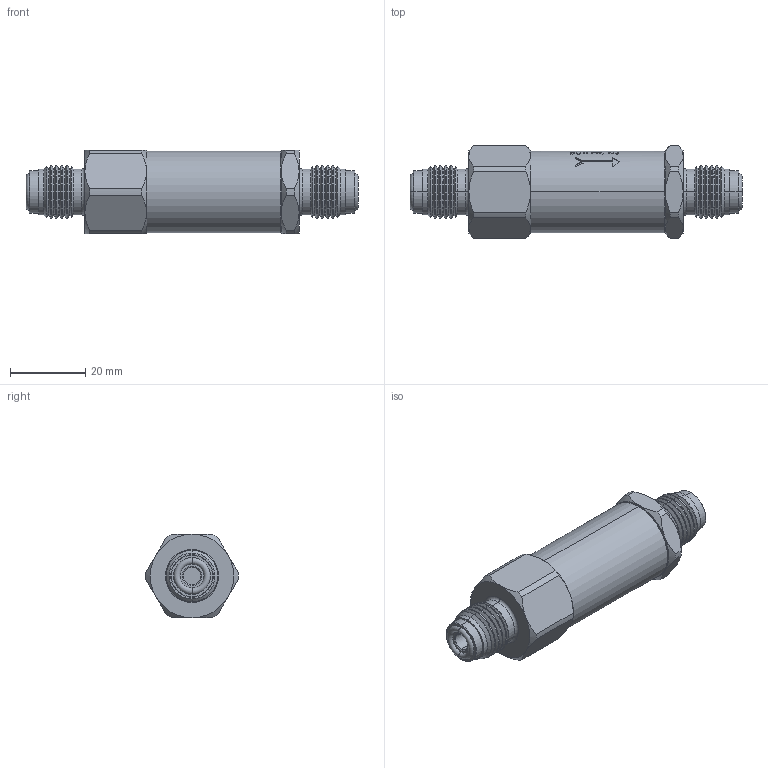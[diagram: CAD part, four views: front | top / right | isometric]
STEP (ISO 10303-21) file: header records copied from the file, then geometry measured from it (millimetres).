
FILE_DESCRIPTION (( 'STEP AP203' ), '1' );
FILE_NAME ('IRV4V.STEP', '2020-08-13T14:23:33', ( '' ), ( '' ), 'SwSTEP 2.0', 'SolidWorks 2020', '' );
FILE_SCHEMA (( 'CONFIG_CONTROL_DESIGN' ));
Length unit declared in the file: inch
Products named in the file (2): IRV4V; Part4^IRV4V
Assembly tree (1 placements, depth 2):
  IRV4V
    Part4^IRV4V
Bounding box: 88.49 x 24.76 x 22.23 mm (x, y, z)
Volume: 25796.6 mm3; surface area: 6935.8 mm2
Topology: 1 solids, 1 shells, 403 faces, 978 edges, 610 vertices
Faces by surface type: plane 154, cylinder 89, cone 82, bspline 70, torus 8
Entity records: 16647 total; most frequent: CARTESIAN_POINT 7544, ORIENTED_EDGE 1956, DIRECTION 1682, EDGE_CURVE 978, AXIS2_PLACEMENT_3D 653, VERTEX_POINT 610, EDGE_LOOP 436, FACE_OUTER_BOUND 403
